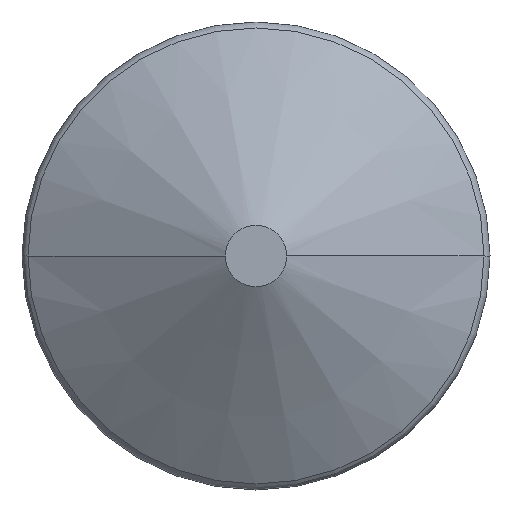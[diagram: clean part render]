
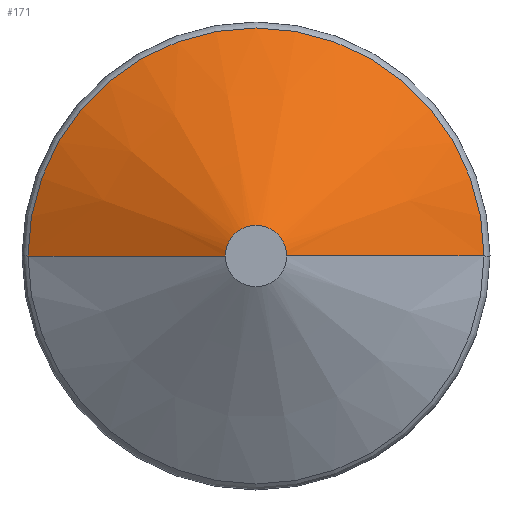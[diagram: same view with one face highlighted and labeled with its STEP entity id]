
A CAD part, front view. The second image highlights one B-rep face of the part: STEP entity #171.
In plain terms, the highlighted conical face has half-angle 59 degrees and reference radius 0.5 mm.
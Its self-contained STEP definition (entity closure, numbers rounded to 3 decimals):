
#5 = CARTESIAN_POINT ( 'NONE',  ( 3.713, -6.069, 0. ) ) ;
#9 = DIRECTION ( 'NONE',  ( 0.857, 0.515, 0. ) ) ;
#14 = AXIS2_PLACEMENT_3D ( 'NONE', #44, #388, #381 ) ;
#22 = CONICAL_SURFACE ( 'NONE', #116, 0.5, 1.03 ) ;
#32 = CARTESIAN_POINT ( 'NONE',  ( -0.5, -8., 0. ) ) ;
#40 = CARTESIAN_POINT ( 'NONE',  ( 0.5, -8., 0. ) ) ;
#44 = CARTESIAN_POINT ( 'NONE',  ( 0., -8., 0. ) ) ;
#47 = VERTEX_POINT ( 'NONE', #383 ) ;
#53 = EDGE_CURVE ( 'NONE', #47, #153, #231, .T. ) ;
#81 = EDGE_CURVE ( 'NONE', #371, #364, #499, .T. ) ;
#85 = CIRCLE ( 'NONE', #376, 3.713 ) ;
#98 = VECTOR ( 'NONE', #121, 1000. ) ;
#101 = EDGE_CURVE ( 'NONE', #371, #47, #473, .T. ) ;
#102 = EDGE_CURVE ( 'NONE', #153, #364, #85, .T. ) ;
#116 = AXIS2_PLACEMENT_3D ( 'NONE', #469, #160, #240 ) ;
#121 = DIRECTION ( 'NONE',  ( -0.857, 0.515, 0. ) ) ;
#153 = VERTEX_POINT ( 'NONE', #5 ) ;
#160 = DIRECTION ( 'NONE',  ( 0., 1., 0. ) ) ;
#171 = ADVANCED_FACE ( 'NONE', ( #194 ), #22, .T. ) ;
#194 = FACE_OUTER_BOUND ( 'NONE', #403, .T. ) ;
#231 = LINE ( 'NONE', #40, #466 ) ;
#233 = DIRECTION ( 'NONE',  ( 1., 0., 0. ) ) ;
#239 = ORIENTED_EDGE ( 'NONE', *, *, #81, .F. ) ;
#240 = DIRECTION ( 'NONE',  ( -1., 0., 0. ) ) ;
#279 = DIRECTION ( 'NONE',  ( 0., -1., 0. ) ) ;
#290 = ORIENTED_EDGE ( 'NONE', *, *, #53, .T. ) ;
#315 = ORIENTED_EDGE ( 'NONE', *, *, #102, .T. ) ;
#338 = CARTESIAN_POINT ( 'NONE',  ( -3.713, -6.069, 0. ) ) ;
#346 = CARTESIAN_POINT ( 'NONE',  ( -0.5, -8., 0. ) ) ;
#348 = ORIENTED_EDGE ( 'NONE', *, *, #101, .T. ) ;
#364 = VERTEX_POINT ( 'NONE', #338 ) ;
#371 = VERTEX_POINT ( 'NONE', #32 ) ;
#376 = AXIS2_PLACEMENT_3D ( 'NONE', #422, #279, #233 ) ;
#381 = DIRECTION ( 'NONE',  ( -1., 0., 0. ) ) ;
#383 = CARTESIAN_POINT ( 'NONE',  ( 0.5, -8., 0. ) ) ;
#388 = DIRECTION ( 'NONE',  ( 0., 1., 0. ) ) ;
#403 = EDGE_LOOP ( 'NONE', ( #348, #290, #315, #239 ) ) ;
#422 = CARTESIAN_POINT ( 'NONE',  ( 0., -6.069, 0. ) ) ;
#466 = VECTOR ( 'NONE', #9, 1000. ) ;
#469 = CARTESIAN_POINT ( 'NONE',  ( 0., -8., 0. ) ) ;
#473 = CIRCLE ( 'NONE', #14, 0.5 ) ;
#499 = LINE ( 'NONE', #346, #98 ) ;
